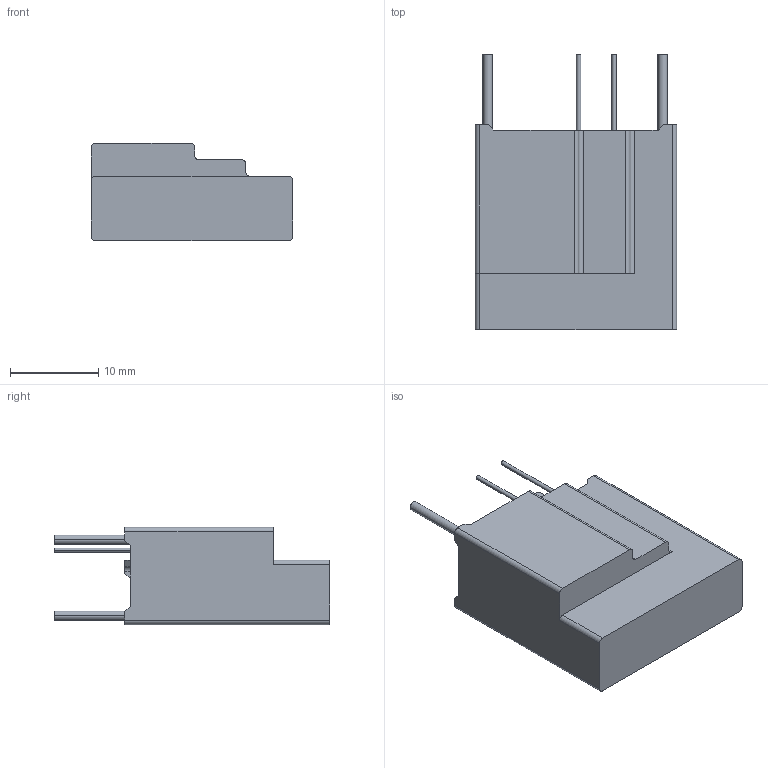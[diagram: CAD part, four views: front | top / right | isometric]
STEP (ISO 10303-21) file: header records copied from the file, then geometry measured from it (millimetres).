
FILE_DESCRIPTION((''),'2;1');
FILE_NAME('20S4401-IT-20200616','2020-06-19T',('set'),(''),'PRO/ENGINEER BY PARAMETRIC TECHNOLOGY CORPORATION, 2012310','PRO/ENGINEER BY PARAMETRIC TECHNOLOGY CORPORATION, 2012310','');
FILE_SCHEMA(('CONFIG_CONTROL_DESIGN','SHAPE_APPEARANCE_LAYERS_GROUPS'));
Length unit declared in the file: millimetre
Products named in the file (1): 20S4401-IT-20200616
Bounding box: 22.8 x 31.2 x 11 mm (x, y, z)
Volume: 1406.7 mm3; surface area: 3647.1 mm2
Topology: 1 solids, 2 shells, 107 faces, 297 edges, 198 vertices
Faces by surface type: plane 79, cylinder 28
Entity records: 3456 total; most frequent: CARTESIAN_POINT 602, ORIENTED_EDGE 594, DIRECTION 567, EDGE_CURVE 297, VECTOR 241, LINE 241, VERTEX_POINT 198, AXIS2_PLACEMENT_3D 163
